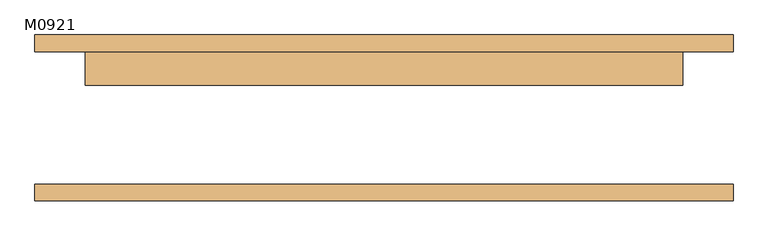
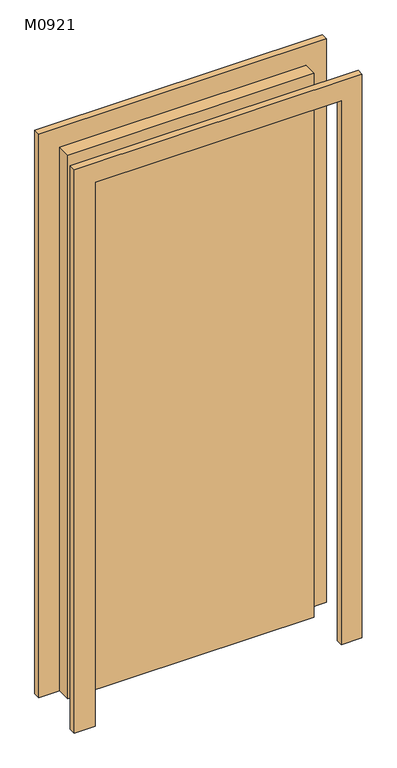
"""IFC4 building model written with IfcOpenShell, lengths in millimetres: door geometry, 单扇 - 与墙齐 : M0921."""

import ifcopenshell
import ifcopenshell.guid

model = None  # the IFC model being written
_history = None  # IfcOwnerHistory: only IFC2X3 demands one
_inside = {}  # id of a spatial element -> (the spatial element, [elements in it])
_under = {}  # id of a project, library or spatial element -> (it, [spatial elements below it])
_declared = {}  # id of a project -> (the project, [libraries it declares])
_typed = {}  # id of a type object -> (the type object, [elements of that type])
_made_of = {}  # id of a material, layer set ... -> (it, [elements and type objects made of it])


def new_model(schema):
    """Start an empty IFC model of exactly this schema.

    Asked for "IFC4X3", IfcOpenShell would pick the latest addendum, in which some entities
    have other attributes; the version numbers below select the first issue.
    IFC2X3 requires an IfcOwnerHistory on every rooted entity: one is made here for all.
    """
    global model, _history
    if schema == "IFC4X3":
        model = ifcopenshell.file(schema_version=(4, 3, 0, 0))
    else:
        model = ifcopenshell.file(schema=schema)
    _inside.clear()
    _under.clear()
    _declared.clear()
    _typed.clear()
    _made_of.clear()
    _history = None
    if model.schema == "IFC2X3":
        org = make("IfcOrganization", Name="unknown")
        user = make(
            "IfcPersonAndOrganization",
            ThePerson=make("IfcPerson", FamilyName="unknown"),
            TheOrganization=org,
        )
        app = make(
            "IfcApplication",
            ApplicationDeveloper=org,
            Version="unknown",
            ApplicationFullName="unknown",
            ApplicationIdentifier="unknown",
        )
        _history = make(
            "IfcOwnerHistory",
            OwningUser=user,
            OwningApplication=app,
            ChangeAction="ADDED",
            CreationDate=0,
        )
    return model


def make(cls, **values):
    """One entity of the class cls with the attributes given. An attribute that is None is left unset."""
    return model.create_entity(
        cls, **{name: value for name, value in values.items() if value is not None}
    )


def rooted(cls, **values):
    """An entity with a GlobalId (a new one), such as an element, a storey or a relation."""
    return make(cls, GlobalId=ifcopenshell.guid.new(), OwnerHistory=_history, **values)


def si_unit(unit_type, name, prefix=None):
    """IfcSIUnit, for example si_unit("LENGTHUNIT", "METRE", prefix="MILLI")."""
    return make("IfcSIUnit", UnitType=unit_type, Prefix=prefix, Name=name)


def assignment(units):
    """IfcUnitAssignment: the units of a project."""
    return None if units is None else make("IfcUnitAssignment", Units=units)


def point(xyz):
    """IfcCartesianPoint."""
    return None if xyz is None else make("IfcCartesianPoint", Coordinates=xyz)


def direction(xyz):
    """IfcDirection."""
    return None if xyz is None else make("IfcDirection", DirectionRatios=xyz)


def frame(location, z_axis=None, x_axis=None):
    """IfcAxis2Placement3D, a coordinate frame: its origin and axes. An axis left out is left unset."""
    return make(
        "IfcAxis2Placement3D",
        Location=point(location),
        Axis=direction(z_axis),
        RefDirection=direction(x_axis),
    )


def origin():
    """The frame at (0, 0, 0) with its axes left unset."""
    return frame((0.0, 0.0, 0.0))


def origin_with_axes():
    """The frame at (0, 0, 0) with the z axis (0, 0, 1) and the x axis (1, 0, 0) written out."""
    return frame((0.0, 0.0, 0.0), z_axis=(0.0, 0.0, 1.0), x_axis=(1.0, 0.0, 0.0))


def place(relative_to, where):
    """IfcLocalPlacement: puts the frame where relative to a parent placement (None: the world)."""
    return make(
        "IfcLocalPlacement", PlacementRelTo=relative_to, RelativePlacement=where
    )


def context(
    kind, dimensions, precision=None, world=None, true_north=None, identifier=None
):
    """IfcGeometricRepresentationContext, for example the 3D "Model" context."""
    return make(
        "IfcGeometricRepresentationContext",
        ContextIdentifier=identifier,
        ContextType=kind,
        CoordinateSpaceDimension=dimensions,
        Precision=precision,
        WorldCoordinateSystem=world,
        TrueNorth=true_north,
    )


def project(units=None, contexts=None):
    """IfcProject with its units and contexts."""
    return rooted(
        "IfcProject",
        Name="project",
        RepresentationContexts=contexts,
        UnitsInContext=assignment(units),
    )


def spatial(cls, under=None, at=None, **own):
    """A site, building, storey or space (cls), placed at a placement, below another one or the project."""
    s = rooted(cls, ObjectPlacement=at, **own)
    if under is not None:
        _under.setdefault(under.id(), (under, []))[1].append(s)
    return s


def polyline(points):
    """IfcPolyline through the points."""
    return make("IfcPolyline", Points=[point(p) for p in points])


def outline(outer, holes=None, kind="AREA"):
    """IfcArbitraryClosedProfileDef: a profile drawn as a closed curve; with holes, ...WithVoids."""
    if holes is None:
        return make("IfcArbitraryClosedProfileDef", ProfileType=kind, OuterCurve=outer)
    return make(
        "IfcArbitraryProfileDefWithVoids",
        ProfileType=kind,
        OuterCurve=outer,
        InnerCurves=holes,
    )


def extrude(swept, where, along, depth):
    """IfcExtrudedAreaSolid: the profile swept, set in the frame where, extruded along a direction by depth."""
    return make(
        "IfcExtrudedAreaSolid",
        SweptArea=swept,
        Position=where,
        ExtrudedDirection=direction(along),
        Depth=depth,
    )


def shape(context_of_items, identifier, shape_type, items):
    """IfcShapeRepresentation: the items that make up one representation, for example the "Body"."""
    return make(
        "IfcShapeRepresentation",
        ContextOfItems=context_of_items,
        RepresentationIdentifier=identifier,
        RepresentationType=shape_type,
        Items=items,
    )


def source(mapping_origin, context_of_items, identifier, shape_type, items):
    """IfcRepresentationMap: a shape defined once, which mapped items show again and again."""
    return make(
        "IfcRepresentationMap",
        MappingOrigin=mapping_origin,
        MappedRepresentation=shape(context_of_items, identifier, shape_type, items),
    )


def transform(
    local_origin,
    x_axis=None,
    y_axis=None,
    z_axis=None,
    scale=None,
    scale2=None,
    scale3=None,
    uniform=True,
):
    """IfcCartesianTransformationOperator3D, or its non-uniform kind. x_axis, y_axis, z_axis: its Axis1, 2, 3."""
    if uniform:
        return make(
            "IfcCartesianTransformationOperator3D",
            Axis1=direction(x_axis),
            Axis2=direction(y_axis),
            LocalOrigin=point(local_origin),
            Scale=scale,
            Axis3=direction(z_axis),
        )
    return make(
        "IfcCartesianTransformationOperator3DnonUniform",
        Axis1=direction(x_axis),
        Axis2=direction(y_axis),
        LocalOrigin=point(local_origin),
        Scale=scale,
        Axis3=direction(z_axis),
        Scale2=scale2,
        Scale3=scale3,
    )


def mapped(mapping_source, mapping_target):
    """IfcMappedItem: shows the shape of a source again, moved by a transform."""
    return make(
        "IfcMappedItem", MappingSource=mapping_source, MappingTarget=mapping_target
    )


def made_of(thing, what):
    """Note that an element or type object is made of a material, layer set ...; save() writes the relation."""
    if what is not None:
        _made_of.setdefault(what.id(), (what, []))[1].append(thing)
    return thing


def element(
    cls,
    number,
    at=None,
    inside=None,
    cuts=None,
    type_object=None,
    material=None,
    context=None,
    identifier="Body",
    shape_type=None,
    held_by="IfcProductDefinitionShape",
    body=None,
    shapes=None,
    **own,
):
    """One element of the class cls, such as IfcWall. Its Tag is "e" and its number.

    at: its placement. inside: the storey or other place that contains it. cuts: it is an
    opening in that element (IfcRelVoidsElement). A single representation is given by context,
    identifier, shape_type and body (its items); several are given by shapes. held_by: the class
    of the entity that holds the representations. save() writes the other relations.
    """
    e = rooted(cls, Tag="e%d" % number, ObjectPlacement=at, **own)
    if body is not None:
        shapes = [shape(context, identifier, shape_type, body)]
    if shapes is not None:
        e.Representation = make(held_by, Representations=shapes)
    if inside is not None:
        _inside.setdefault(inside.id(), (inside, []))[1].append(e)
    if cuts is not None:
        rooted(
            "IfcRelVoidsElement", RelatingBuildingElement=cuts, RelatedOpeningElement=e
        )
    if type_object is not None:
        _typed.setdefault(type_object.id(), (type_object, []))[1].append(e)
    return made_of(e, material)


def aggregate(whole, parts):
    """IfcRelAggregates: a whole, such as a stair, and the parts it consists of."""
    return rooted("IfcRelAggregates", RelatingObject=whole, RelatedObjects=parts)


def save(model, path):
    """Write the relations noted so far, then the file.

    IfcRelAggregates (storeys below a building ...), IfcRelContainedInSpatialStructure (elements
    in a storey), IfcRelDefinesByType, IfcRelAssociatesMaterial and IfcRelDeclares: one each for
    every whole, place, type object, material and project.
    """
    for whole, parts in _under.values():
        aggregate(whole, parts)
    for where, things in _inside.values():
        rooted(
            "IfcRelContainedInSpatialStructure",
            RelatedElements=things,
            RelatingStructure=where,
        )
    for kind, things in _typed.values():
        rooted("IfcRelDefinesByType", RelatedObjects=things, RelatingType=kind)
    for what, things in _made_of.values():
        rooted("IfcRelAssociatesMaterial", RelatedObjects=things, RelatingMaterial=what)
    for by, libraries in _declared.values():
        rooted("IfcRelDeclares", RelatingContext=by, RelatedDefinitions=libraries)
    model.write(path)


def m0921_8cb0c558(model_context):
    return source(origin(), model_context, "Body", "SweptSolid", [
        extrude(outline(polyline([(2176.0, -526.0), (0.0, -526.0), (0.0, -450.0), (2100.0, -450.0), (2100.0, 450.0), (0.0, 450.0), (0.0, 526.0), (2176.0, 526.0), (2176.0, -526.0)])), frame((0.0, 100.0, 0.0), z_axis=(0.0, 1.0, 0.0), x_axis=(0.0, 0.0, 1.0)), (0.0, 0.0, 1.0), 25.0),
        extrude(outline(polyline([(2176.0, 526.0), (2176.0, -526.0), (0.0, -526.0), (0.0, -450.0), (2100.0, -450.0), (2100.0, 450.0), (0.0, 450.0), (0.0, 526.0), (2176.0, 526.0)])), frame((0.0, -125.0, 0.0), z_axis=(0.0, 1.0, 0.0), x_axis=(0.0, 0.0, 1.0)), (0.0, 0.0, 1.0), 25.0),
        extrude(outline(polyline([(450.0, 49.0), (-450.0, 49.0), (-450.0, 100.0), (450.0, 100.0), (450.0, 49.0)])), origin_with_axes(), (0.0, 0.0, 1.0), 2100.0),
    ])


if __name__ == "__main__":
    model = new_model("IFC4")
    model_context = context("Model", 3, world=origin())
    ifc_project = project(units=[si_unit("LENGTHUNIT", "METRE", prefix="MILLI")], contexts=[model_context])
    site = spatial("IfcSite", under=ifc_project)
    building = spatial("IfcBuilding", under=site)
    placement = place(None, origin())
    m0921_shape = m0921_8cb0c558(model_context)
    element("IfcDoor", 1, ObjectType="单扇 - 与墙齐 : M0921", at=placement, inside=building, context=model_context, shape_type="MappedRepresentation", body=[
        mapped(m0921_shape, transform((0.0, 0.0, 0.0), x_axis=(1.0, 0.0, 0.0), y_axis=(0.0, 1.0, 0.0), z_axis=(0.0, 0.0, 1.0))),
    ])
    save(model, "model.ifc")
